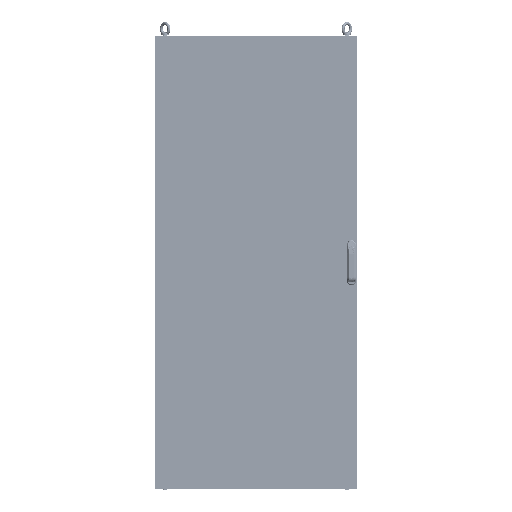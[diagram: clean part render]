
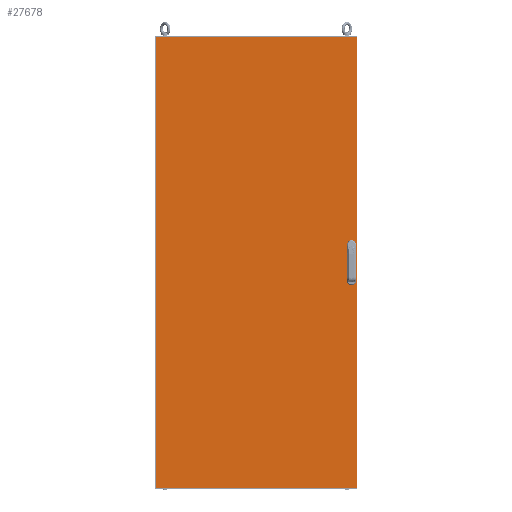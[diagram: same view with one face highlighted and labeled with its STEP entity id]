
A CAD part, front view. The second image highlights one B-rep face of the part: STEP entity #27678.
In plain terms, the highlighted planar face has unit normal (0, -1, 0).
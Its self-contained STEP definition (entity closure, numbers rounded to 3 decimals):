
#7266=ORIENTED_EDGE('',*,*,#12242,.T.);
#7267=ORIENTED_EDGE('',*,*,#12243,.T.);
#7268=ORIENTED_EDGE('',*,*,#12244,.T.);
#7269=ORIENTED_EDGE('',*,*,#12245,.T.);
#7270=ORIENTED_EDGE('',*,*,#12246,.T.);
#7271=ORIENTED_EDGE('',*,*,#12247,.T.);
#7272=ORIENTED_EDGE('',*,*,#12248,.T.);
#7273=ORIENTED_EDGE('',*,*,#12249,.T.);
#7274=ORIENTED_EDGE('',*,*,#12236,.F.);
#7275=ORIENTED_EDGE('',*,*,#12239,.F.);
#7276=ORIENTED_EDGE('',*,*,#12233,.F.);
#7277=ORIENTED_EDGE('',*,*,#12241,.F.);
#12233=EDGE_CURVE('',#15153,#15151,#17871,.T.);
#12236=EDGE_CURVE('',#15156,#15157,#17874,.T.);
#12239=EDGE_CURVE('',#15151,#15156,#17877,.T.);
#12241=EDGE_CURVE('',#15157,#15153,#17879,.T.);
#12242=EDGE_CURVE('',#15158,#15159,#17880,.T.);
#12243=EDGE_CURVE('',#15159,#15160,#17881,.T.);
#12244=EDGE_CURVE('',#15160,#15161,#17882,.T.);
#12245=EDGE_CURVE('',#15161,#15158,#17883,.T.);
#12246=EDGE_CURVE('',#15162,#15163,#17884,.T.);
#12247=EDGE_CURVE('',#15163,#15164,#17885,.T.);
#12248=EDGE_CURVE('',#15164,#15165,#17886,.T.);
#12249=EDGE_CURVE('',#15165,#15162,#17887,.T.);
#15151=VERTEX_POINT('',#46923);
#15153=VERTEX_POINT('',#46927);
#15156=VERTEX_POINT('',#46934);
#15157=VERTEX_POINT('',#46936);
#15158=VERTEX_POINT('',#46947);
#15159=VERTEX_POINT('',#46948);
#15160=VERTEX_POINT('',#46950);
#15161=VERTEX_POINT('',#46952);
#15162=VERTEX_POINT('',#46955);
#15163=VERTEX_POINT('',#46956);
#15164=VERTEX_POINT('',#46958);
#15165=VERTEX_POINT('',#46960);
#17871=LINE('',#46928,#20418);
#17874=LINE('',#46935,#20421);
#17877=LINE('',#46940,#20424);
#17879=LINE('',#46943,#20426);
#17880=LINE('',#46946,#20427);
#17881=LINE('',#46949,#20428);
#17882=LINE('',#46951,#20429);
#17883=LINE('',#46953,#20430);
#17884=LINE('',#46954,#20431);
#17885=LINE('',#46957,#20432);
#17886=LINE('',#46959,#20433);
#17887=LINE('',#46961,#20434);
#20418=VECTOR('',#38786,1000.);
#20421=VECTOR('',#38791,1000.);
#20424=VECTOR('',#38796,1000.);
#20426=VECTOR('',#38800,1000.);
#20427=VECTOR('',#38805,1000.);
#20428=VECTOR('',#38806,1000.);
#20429=VECTOR('',#38807,1000.);
#20430=VECTOR('',#38808,1000.);
#20431=VECTOR('',#38809,1000.);
#20432=VECTOR('',#38810,1000.);
#20433=VECTOR('',#38811,1000.);
#20434=VECTOR('',#38812,1000.);
#22554=EDGE_LOOP('',(#7266,#7267,#7268,#7269));
#22555=EDGE_LOOP('',(#7270,#7271,#7272,#7273));
#22556=EDGE_LOOP('',(#7274,#7275,#7276,#7277));
#24831=FACE_BOUND('',#22554,.T.);
#24832=FACE_BOUND('',#22555,.T.);
#24833=FACE_BOUND('',#22556,.T.);
#26413=PLANE('',#32756);
#27678=ADVANCED_FACE('',(#24831,#24832,#24833),#26413,.F.);
#32756=AXIS2_PLACEMENT_3D('',#46945,#38803,#38804);
#38786=DIRECTION('',(0.,0.,-1.));
#38791=DIRECTION('',(0.,0.,1.));
#38796=DIRECTION('',(-1.,0.,0.));
#38800=DIRECTION('',(1.,0.,0.));
#38803=DIRECTION('',(0.,1.,0.));
#38804=DIRECTION('',(-1.,0.,0.));
#38805=DIRECTION('',(-1.,0.,0.));
#38806=DIRECTION('',(0.,0.,1.));
#38807=DIRECTION('',(1.,0.,0.));
#38808=DIRECTION('',(0.,0.,-1.));
#38809=DIRECTION('',(-1.,0.,0.));
#38810=DIRECTION('',(0.,0.,1.));
#38811=DIRECTION('',(1.,0.,0.));
#38812=DIRECTION('',(0.,0.,-1.));
#46923=CARTESIAN_POINT('',(399.,-13.,-895.));
#46927=CARTESIAN_POINT('',(399.,-13.,895.));
#46928=CARTESIAN_POINT('',(399.,-13.,895.));
#46934=CARTESIAN_POINT('',(-399.,-13.,-895.));
#46935=CARTESIAN_POINT('',(-399.,-13.,-895.));
#46936=CARTESIAN_POINT('',(-399.,-13.,895.));
#46940=CARTESIAN_POINT('',(399.,-13.,-895.));
#46943=CARTESIAN_POINT('',(-399.,-13.,895.));
#46945=CARTESIAN_POINT('',(0.,-13.,0.));
#46946=CARTESIAN_POINT('',(390.5,-13.,25.));
#46947=CARTESIAN_POINT('',(390.5,-13.,25.));
#46948=CARTESIAN_POINT('',(365.5,-13.,25.));
#46949=CARTESIAN_POINT('',(365.5,-13.,25.));
#46950=CARTESIAN_POINT('',(365.5,-13.,75.));
#46951=CARTESIAN_POINT('',(365.5,-13.,75.));
#46952=CARTESIAN_POINT('',(390.5,-13.,75.));
#46953=CARTESIAN_POINT('',(390.5,-13.,75.));
#46954=CARTESIAN_POINT('',(390.5,-13.,-75.));
#46955=CARTESIAN_POINT('',(390.5,-13.,-75.));
#46956=CARTESIAN_POINT('',(365.5,-13.,-75.));
#46957=CARTESIAN_POINT('',(365.5,-13.,-75.));
#46958=CARTESIAN_POINT('',(365.5,-13.,-25.));
#46959=CARTESIAN_POINT('',(365.5,-13.,-25.));
#46960=CARTESIAN_POINT('',(390.5,-13.,-25.));
#46961=CARTESIAN_POINT('',(390.5,-13.,-25.));
